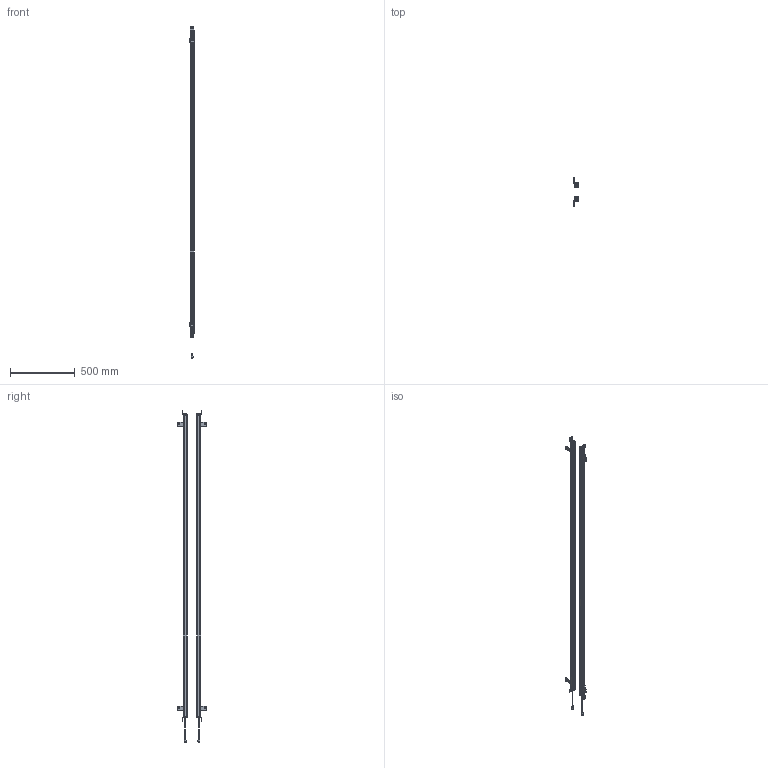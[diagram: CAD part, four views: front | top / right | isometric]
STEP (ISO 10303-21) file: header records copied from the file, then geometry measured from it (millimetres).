
FILE_DESCRIPTION(/* description */ (''),/* implementation_level */ '2;1');
FILE_NAME(/* name */ '5840（29x30).stp',/* time_stamp */ '2023-05-04T09:09:12+08:00',/* author */ (''),/* organization */ (''),/* preprocessor_version */ 'ST-DEVELOPER v16.7',/* originating_system */ 'SIEMENS PLM Software NX 12.0',/* authorisation */ '');
FILE_SCHEMA (('AUTOMOTIVE_DESIGN { 1 0 10303 214 3 1 1 1 }'));
Products named in the file (1): 2640（29x30__stp11
Bounding box: 32.03 x 223.99 x 2561 mm (x, y, z)
Volume: 1418557.7 mm3; surface area: 1456408.1 mm2
Topology: 34 solids, 34 shells, 1610 faces, 4267 edges, 2771 vertices
Faces by surface type: plane 750, cylinder 648, bspline 88, sphere 36, cone 36, torus 32, extrusion 20
Full cylindrical faces by diameter (mm): 1.533 x6, 4.4 x4, 9 x2, 12.5 x2
Entity records: 56427 total; most frequent: CARTESIAN_POINT 16064, DIRECTION 8330, ORIENTED_EDGE 8324, EDGE_CURVE 4162, AXIS2_PLACEMENT_3D 2918, VERTEX_POINT 2696, VECTOR 2494, LINE 2474
